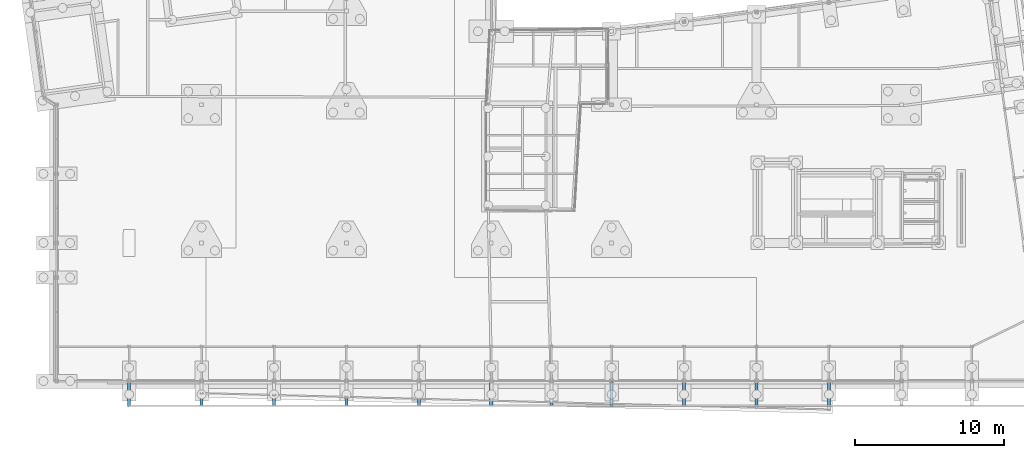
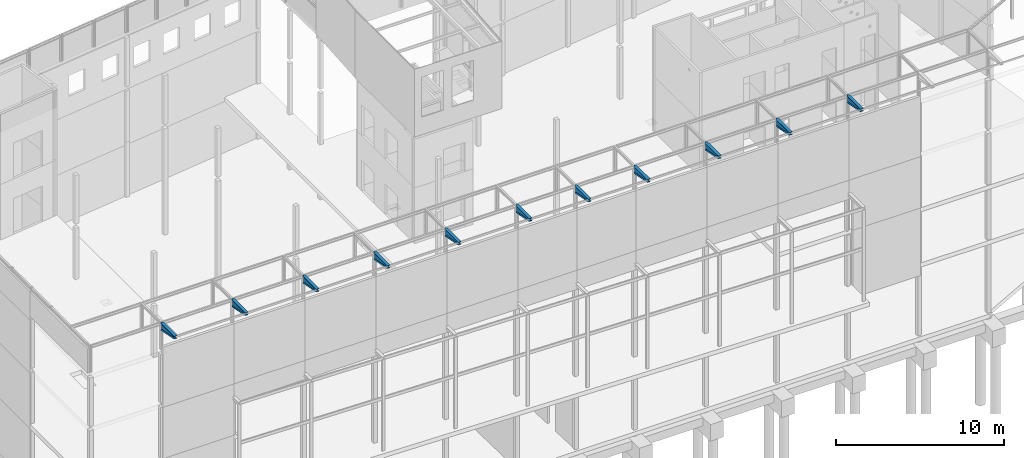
# One storey, part 80 of 82: 11 beams.
"""IFC2X3 building model written with IfcOpenShell, lengths in millimetres."""

from ifc_helpers import new_model, si_unit, frame, origin_with_axes, place, context, subcontext, project, spatial, faceted_brep, material, type_object, element, save


model = new_model("IFC2X3")

# Units and contexts
model_context = context("Model", 3, precision=1e-05, world=origin_with_axes())
body_context = subcontext(model_context, "Body", "Model", "MODEL_VIEW")
ifc_project = project(units=[si_unit("LENGTHUNIT", "METRE", prefix="MILLI"), si_unit("AREAUNIT", "SQUARE_METRE"), si_unit("VOLUMEUNIT", "CUBIC_METRE"), si_unit("MASSUNIT", "GRAM", prefix="KILO"), si_unit("TIMEUNIT", "SECOND"), si_unit("PLANEANGLEUNIT", "RADIAN"), si_unit("SOLIDANGLEUNIT", "STERADIAN"), si_unit("THERMODYNAMICTEMPERATUREUNIT", "DEGREE_CELSIUS"), si_unit("LUMINOUSINTENSITYUNIT", "LUMEN")], contexts=[model_context])

# Site, building, storey
site_placement = place(None, origin_with_axes())
site = spatial("IfcSite", under=ifc_project, at=site_placement, Name="Undefined", CompositionType="ELEMENT")
building_placement = place(site_placement, origin_with_axes())
building = spatial("IfcBuilding", under=site, at=building_placement, Name="Undefined", CompositionType="ELEMENT")
storey_placement = place(building_placement, origin_with_axes())
storey = spatial("IfcBuildingStorey", under=building, at=storey_placement, Name="Undefined", CompositionType="ELEMENT", Elevation=0.0)

# Beams
ifc_material = material(Name="STEEL/S275JR")
beam_type = type_object("IfcBeamType", Name="PHI533-200-10-14*210-14*210", PredefinedType="NOTDEFINED")
beam_1_placement = place(storey_placement, frame((51974.9995146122, -7.05276477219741e-08, 19025.0297374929), z_axis=(0.0, -6.50000002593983e-08, -0.999999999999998), x_axis=(-2.77555756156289e-17, -1.0, 0.0)))
element("IfcBeam", 1, at=beam_1_placement, inside=storey, type_object=beam_type, material=ifc_material, Name="POUTRE", ObjectType="PHI533-200-10-14*210-14*210", context=body_context, shape_type="Brep", body=[
    faceted_brep([(3.99994944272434, -52.000244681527, -100.0), (89.9999494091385, -52.0003284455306, -99.9999999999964), (89.9999494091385, -52.0003284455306, -86.0), (3.99994944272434, -52.000244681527, -86.0), (89.9998977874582, -105.0, -100.0), (89.9998977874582, -105.0, -86.0), (3.99994944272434, -52.000244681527, 417.95041937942), (89.9999494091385, -52.0003284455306, 401.104537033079), (89.9999494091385, -52.0003284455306, 415.370598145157), (3.99994944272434, -52.000244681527, 432.216480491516), (89.9998977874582, -105.0, 401.104547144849), (89.9998977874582, -105.0, 415.370608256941), (4.00000004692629, -5.0, 417.95040946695), (1699.99999997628, -5.00000000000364, 85.7339388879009), (1699.99999997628, -105.000000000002, 85.7339388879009), (1699.99999997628, 104.999999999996, 100.0), (1699.99999997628, 104.999999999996, 85.7339388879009), (90.0001023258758, 105.0, 401.104507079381), (90.0001023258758, 105.0, 415.370568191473), (90.0000507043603, 52.0004975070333, 401.104517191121), (90.0000507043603, 52.0004975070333, 415.370578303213), (4.00005073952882, 52.0005812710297, 417.950399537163), (4.00005073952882, 52.0005812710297, 432.216460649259), (1699.99999997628, 4.99999999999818, 85.7339388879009), (4.00000004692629, 5.0, 417.95040946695), (4.00000004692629, 5.0, -86.0), (1699.99999997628, 4.99999999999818, -86.0), (4.00005073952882, 52.0005812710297, -100.0), (90.0000507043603, 52.0004975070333, -100.0), (90.0001023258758, 105.0, -100.0), (1699.99999997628, 104.999999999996, -100.0), (1699.99999997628, -105.000000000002, -100.0), (4.00005073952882, 52.0005812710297, -86.0), (90.0000507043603, 52.0004975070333, -86.0), (1699.99999997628, 104.999999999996, -86.0), (90.0001023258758, 105.0, -86.0), (1699.99999997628, -105.000000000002, 100.0), (1699.99999997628, -5.00000000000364, -86.0), (1699.99999997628, -105.000000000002, -86.0), (4.00000004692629, -5.0, -86.0)], [[[0, 1, 2, 3]], [[4, 5, 2, 1]], [[6, 7, 8, 9]], [[10, 11, 8, 7]], [[6, 12, 13, 14, 10, 7]], [[15, 16, 17, 18]], [[19, 20, 18, 17]], [[21, 22, 20, 19]], [[17, 16, 23, 24, 21, 19]], [[25, 24, 23, 26]], [[0, 27, 28, 29, 30, 31, 4, 1]], [[27, 32, 33, 28]], [[25, 26, 34, 35, 33, 32]], [[28, 33, 35, 29]], [[34, 30, 29, 35]], [[26, 23, 16, 15, 36, 14, 13, 37, 38, 31, 30, 34]], [[12, 39, 37, 13]], [[38, 37, 39, 3, 2, 5]], [[31, 38, 5, 4]], [[39, 12, 6, 9, 22, 21, 24, 25, 32, 27, 0, 3]], [[36, 15, 18, 20, 22, 9, 8, 11]], [[14, 36, 11, 10]]]),
])
beam_2_placement = place(storey_placement, frame((47099.9995146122, -6.27685210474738e-08, 19025.0297374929), z_axis=(0.0, -6.50000002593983e-08, -0.999999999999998), x_axis=(-2.77555756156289e-17, -1.0, 0.0)))
element("IfcBeam", 2, at=beam_2_placement, inside=storey, type_object=beam_type, material=ifc_material, Name="POUTRE", ObjectType="PHI533-200-10-14*210-14*210", context=body_context, shape_type="Brep", body=[
    faceted_brep([(3.99994944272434, -52.000244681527, -100.0), (89.9999494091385, -52.0003284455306, -99.9999999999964), (89.9999494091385, -52.0003284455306, -86.0), (3.99994944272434, -52.000244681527, -86.0), (89.9998977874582, -105.0, -100.0), (89.9998977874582, -105.0, -86.0), (3.99994944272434, -52.000244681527, 417.95041937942), (89.9999494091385, -52.0003284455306, 401.104537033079), (89.9999494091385, -52.0003284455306, 415.370598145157), (3.99994944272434, -52.000244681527, 432.216480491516), (89.9998977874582, -105.0, 401.104547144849), (89.9998977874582, -105.0, 415.370608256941), (4.00000004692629, -5.0, 417.95040946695), (1699.99999997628, -5.00000000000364, 85.7339388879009), (1699.99999997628, -105.000000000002, 85.7339388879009), (1699.99999997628, 104.999999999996, 100.0), (1699.99999997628, 104.999999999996, 85.7339388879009), (90.0001023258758, 105.0, 401.104507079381), (90.0001023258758, 105.0, 415.370568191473), (90.0000507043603, 52.0004975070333, 401.104517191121), (90.0000507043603, 52.0004975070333, 415.370578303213), (4.00005073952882, 52.0005812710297, 417.950399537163), (4.00005073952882, 52.0005812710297, 432.216460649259), (1699.99999997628, 4.99999999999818, 85.7339388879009), (4.00000004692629, 5.0, 417.95040946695), (4.00000004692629, 5.0, -86.0), (1699.99999997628, 4.99999999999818, -86.0), (4.00005073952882, 52.0005812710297, -100.0), (90.0000507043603, 52.0004975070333, -100.0), (90.0001023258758, 105.0, -100.0), (1699.99999997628, 104.999999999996, -100.0), (1699.99999997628, -105.000000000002, -100.0), (4.00005073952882, 52.0005812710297, -86.0), (90.0000507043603, 52.0004975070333, -86.0), (1699.99999997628, 104.999999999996, -86.0), (90.0001023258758, 105.0, -86.0), (1699.99999997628, -105.000000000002, 100.0), (1699.99999997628, -5.00000000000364, -86.0), (1699.99999997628, -105.000000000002, -86.0), (4.00000004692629, -5.0, -86.0)], [[[0, 1, 2, 3]], [[4, 5, 2, 1]], [[6, 7, 8, 9]], [[10, 11, 8, 7]], [[6, 12, 13, 14, 10, 7]], [[15, 16, 17, 18]], [[19, 20, 18, 17]], [[21, 22, 20, 19]], [[17, 16, 23, 24, 21, 19]], [[25, 24, 23, 26]], [[0, 27, 28, 29, 30, 31, 4, 1]], [[27, 32, 33, 28]], [[25, 26, 34, 35, 33, 32]], [[28, 33, 35, 29]], [[34, 30, 29, 35]], [[26, 23, 16, 15, 36, 14, 13, 37, 38, 31, 30, 34]], [[12, 39, 37, 13]], [[38, 37, 39, 3, 2, 5]], [[31, 38, 5, 4]], [[39, 12, 6, 9, 22, 21, 24, 25, 32, 27, 0, 3]], [[36, 15, 18, 20, 22, 9, 8, 11]], [[14, 36, 11, 10]]]),
])
beam_3_placement = place(storey_placement, frame((42224.9995146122, -5.50093943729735e-08, 19025.0297374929), z_axis=(0.0, -6.50000002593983e-08, -0.999999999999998), x_axis=(-2.77555756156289e-17, -1.0, 0.0)))
element("IfcBeam", 3, at=beam_3_placement, inside=storey, type_object=beam_type, material=ifc_material, Name="POUTRE", ObjectType="PHI533-200-10-14*210-14*210", context=body_context, shape_type="Brep", body=[
    faceted_brep([(3.99994944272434, -52.000244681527, -100.0), (89.9999494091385, -52.0003284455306, -99.9999999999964), (89.9999494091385, -52.0003284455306, -86.0), (3.99994944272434, -52.000244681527, -86.0), (89.9998977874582, -105.0, -100.0), (89.9998977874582, -105.0, -86.0), (3.99994944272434, -52.000244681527, 417.95041937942), (89.9999494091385, -52.0003284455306, 401.104537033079), (89.9999494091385, -52.0003284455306, 415.370598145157), (3.99994944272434, -52.000244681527, 432.216480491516), (89.9998977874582, -105.0, 401.104547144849), (89.9998977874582, -105.0, 415.370608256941), (4.00000004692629, -5.0, 417.95040946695), (1699.99999997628, -5.00000000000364, 85.7339388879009), (1699.99999997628, -105.000000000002, 85.7339388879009), (1699.99999997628, 104.999999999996, 100.0), (1699.99999997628, 104.999999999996, 85.7339388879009), (90.0001023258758, 105.0, 401.104507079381), (90.0001023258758, 105.0, 415.370568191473), (90.0000507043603, 52.0004975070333, 401.104517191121), (90.0000507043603, 52.0004975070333, 415.370578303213), (4.00005073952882, 52.0005812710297, 417.950399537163), (4.00005073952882, 52.0005812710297, 432.216460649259), (1699.99999997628, 4.99999999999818, 85.7339388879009), (4.00000004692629, 5.0, 417.95040946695), (4.00000004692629, 5.0, -86.0), (1699.99999997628, 4.99999999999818, -86.0), (4.00005073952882, 52.0005812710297, -100.0), (90.0000507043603, 52.0004975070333, -100.0), (90.0001023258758, 105.0, -100.0), (1699.99999997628, 104.999999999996, -100.0), (1699.99999997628, -105.000000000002, -100.0), (4.00005073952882, 52.0005812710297, -86.0), (90.0000507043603, 52.0004975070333, -86.0), (1699.99999997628, 104.999999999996, -86.0), (90.0001023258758, 105.0, -86.0), (1699.99999997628, -105.000000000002, 100.0), (1699.99999997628, -5.00000000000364, -86.0), (1699.99999997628, -105.000000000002, -86.0), (4.00000004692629, -5.0, -86.0)], [[[0, 1, 2, 3]], [[4, 5, 2, 1]], [[6, 7, 8, 9]], [[10, 11, 8, 7]], [[6, 12, 13, 14, 10, 7]], [[15, 16, 17, 18]], [[19, 20, 18, 17]], [[21, 22, 20, 19]], [[17, 16, 23, 24, 21, 19]], [[25, 24, 23, 26]], [[0, 27, 28, 29, 30, 31, 4, 1]], [[27, 32, 33, 28]], [[25, 26, 34, 35, 33, 32]], [[28, 33, 35, 29]], [[34, 30, 29, 35]], [[26, 23, 16, 15, 36, 14, 13, 37, 38, 31, 30, 34]], [[12, 39, 37, 13]], [[38, 37, 39, 3, 2, 5]], [[31, 38, 5, 4]], [[39, 12, 6, 9, 22, 21, 24, 25, 32, 27, 0, 3]], [[36, 15, 18, 20, 22, 9, 8, 11]], [[14, 36, 11, 10]]]),
])
beam_4_placement = place(storey_placement, frame((37349.9995146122, -4.72502676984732e-08, 19025.0297374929), z_axis=(0.0, -6.50000002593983e-08, -0.999999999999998), x_axis=(-2.77555756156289e-17, -1.0, 0.0)))
element("IfcBeam", 4, at=beam_4_placement, inside=storey, type_object=beam_type, material=ifc_material, Name="POUTRE", ObjectType="PHI533-200-10-14*210-14*210", context=body_context, shape_type="Brep", body=[
    faceted_brep([(3.99994944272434, -52.000244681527, -100.0), (89.9999494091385, -52.0003284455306, -99.9999999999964), (89.9999494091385, -52.0003284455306, -86.0), (3.99994944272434, -52.000244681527, -86.0), (89.9998977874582, -105.0, -100.0), (89.9998977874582, -105.0, -86.0), (3.99994944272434, -52.000244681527, 417.95041937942), (89.9999494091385, -52.0003284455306, 401.104537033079), (89.9999494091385, -52.0003284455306, 415.370598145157), (3.99994944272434, -52.000244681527, 432.216480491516), (89.9998977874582, -105.0, 401.104547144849), (89.9998977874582, -105.0, 415.370608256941), (4.00000004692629, -5.0, 417.95040946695), (1699.99999997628, -5.00000000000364, 85.7339388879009), (1699.99999997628, -105.000000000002, 85.7339388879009), (1699.99999997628, 104.999999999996, 100.0), (1699.99999997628, 104.999999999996, 85.7339388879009), (90.0001023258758, 105.0, 401.104507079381), (90.0001023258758, 105.0, 415.370568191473), (90.0000507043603, 52.0004975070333, 401.104517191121), (90.0000507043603, 52.0004975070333, 415.370578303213), (4.00005073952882, 52.0005812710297, 417.950399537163), (4.00005073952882, 52.0005812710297, 432.216460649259), (1699.99999997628, 4.99999999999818, 85.7339388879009), (4.00000004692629, 5.0, 417.95040946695), (4.00000004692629, 5.0, -86.0), (1699.99999997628, 4.99999999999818, -86.0), (4.00005073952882, 52.0005812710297, -100.0), (90.0000507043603, 52.0004975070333, -100.0), (90.0001023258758, 105.0, -100.0), (1699.99999997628, 104.999999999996, -100.0), (1699.99999997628, -105.000000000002, -100.0), (4.00005073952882, 52.0005812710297, -86.0), (90.0000507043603, 52.0004975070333, -86.0), (1699.99999997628, 104.999999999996, -86.0), (90.0001023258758, 105.0, -86.0), (1699.99999997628, -105.000000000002, 100.0), (1699.99999997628, -5.00000000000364, -86.0), (1699.99999997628, -105.000000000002, -86.0), (4.00000004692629, -5.0, -86.0)], [[[0, 1, 2, 3]], [[4, 5, 2, 1]], [[6, 7, 8, 9]], [[10, 11, 8, 7]], [[6, 12, 13, 14, 10, 7]], [[15, 16, 17, 18]], [[19, 20, 18, 17]], [[21, 22, 20, 19]], [[17, 16, 23, 24, 21, 19]], [[25, 24, 23, 26]], [[0, 27, 28, 29, 30, 31, 4, 1]], [[27, 32, 33, 28]], [[25, 26, 34, 35, 33, 32]], [[28, 33, 35, 29]], [[34, 30, 29, 35]], [[26, 23, 16, 15, 36, 14, 13, 37, 38, 31, 30, 34]], [[12, 39, 37, 13]], [[38, 37, 39, 3, 2, 5]], [[31, 38, 5, 4]], [[39, 12, 6, 9, 22, 21, 24, 25, 32, 27, 0, 3]], [[36, 15, 18, 20, 22, 9, 8, 11]], [[14, 36, 11, 10]]]),
])
beam_5_placement = place(storey_placement, frame((33299.9995146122, -4.08042239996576e-08, 19025.0297374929), z_axis=(0.0, -6.50000002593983e-08, -0.999999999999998), x_axis=(-2.77555756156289e-17, -1.0, 0.0)))
element("IfcBeam", 5, at=beam_5_placement, inside=storey, type_object=beam_type, material=ifc_material, Name="POUTRE", ObjectType="PHI533-200-10-14*210-14*210", context=body_context, shape_type="Brep", body=[
    faceted_brep([(3.99994944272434, -52.000244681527, -100.0), (89.9999494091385, -52.0003284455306, -99.9999999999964), (89.9999494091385, -52.0003284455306, -86.0), (3.99994944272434, -52.000244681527, -86.0), (89.9998977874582, -105.0, -100.0), (89.9998977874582, -105.0, -86.0), (3.99994944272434, -52.000244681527, 417.95041937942), (89.9999494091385, -52.0003284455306, 401.104537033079), (89.9999494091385, -52.0003284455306, 415.370598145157), (3.99994944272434, -52.000244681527, 432.216480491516), (89.9998977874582, -105.0, 401.104547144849), (89.9998977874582, -105.0, 415.370608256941), (4.00000004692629, -5.0, 417.95040946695), (1699.99999997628, -5.00000000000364, 85.7339388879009), (1699.99999997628, -105.000000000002, 85.7339388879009), (1699.99999997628, 104.999999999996, 100.0), (1699.99999997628, 104.999999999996, 85.7339388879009), (90.0001023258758, 105.0, 401.104507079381), (90.0001023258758, 105.0, 415.370568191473), (90.0000507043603, 52.0004975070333, 401.104517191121), (90.0000507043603, 52.0004975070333, 415.370578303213), (4.00005073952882, 52.0005812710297, 417.950399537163), (4.00005073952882, 52.0005812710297, 432.216460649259), (1699.99999997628, 4.99999999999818, 85.7339388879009), (4.00000004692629, 5.0, 417.95040946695), (4.00000004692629, 5.0, -86.0), (1699.99999997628, 4.99999999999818, -86.0), (4.00005073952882, 52.0005812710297, -100.0), (90.0000507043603, 52.0004975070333, -100.0), (90.0001023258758, 105.0, -100.0), (1699.99999997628, 104.999999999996, -100.0), (1699.99999997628, -105.000000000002, -100.0), (4.00005073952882, 52.0005812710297, -86.0), (90.0000507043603, 52.0004975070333, -86.0), (1699.99999997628, 104.999999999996, -86.0), (90.0001023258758, 105.0, -86.0), (1699.99999997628, -105.000000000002, 100.0), (1699.99999997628, -5.00000000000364, -86.0), (1699.99999997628, -105.000000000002, -86.0), (4.00000004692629, -5.0, -86.0)], [[[0, 1, 2, 3]], [[4, 5, 2, 1]], [[6, 7, 8, 9]], [[10, 11, 8, 7]], [[6, 12, 13, 14, 10, 7]], [[15, 16, 17, 18]], [[19, 20, 18, 17]], [[21, 22, 20, 19]], [[17, 16, 23, 24, 21, 19]], [[25, 24, 23, 26]], [[0, 27, 28, 29, 30, 31, 4, 1]], [[27, 32, 33, 28]], [[25, 26, 34, 35, 33, 32]], [[28, 33, 35, 29]], [[34, 30, 29, 35]], [[26, 23, 16, 15, 36, 14, 13, 37, 38, 31, 30, 34]], [[12, 39, 37, 13]], [[38, 37, 39, 3, 2, 5]], [[31, 38, 5, 4]], [[39, 12, 6, 9, 22, 21, 24, 25, 32, 27, 0, 3]], [[36, 15, 18, 20, 22, 9, 8, 11]], [[14, 36, 11, 10]]]),
])
beam_6_placement = place(storey_placement, frame((29249.9995146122, -3.43581803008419e-08, 19025.0297374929), z_axis=(0.0, -6.50000002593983e-08, -0.999999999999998), x_axis=(-2.77555756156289e-17, -1.0, 0.0)))
element("IfcBeam", 6, at=beam_6_placement, inside=storey, type_object=beam_type, material=ifc_material, Name="POUTRE", ObjectType="PHI533-200-10-14*210-14*210", context=body_context, shape_type="Brep", body=[
    faceted_brep([(3.99994944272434, -52.000244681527, -100.0), (89.9999494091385, -52.0003284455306, -99.9999999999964), (89.9999494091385, -52.0003284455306, -86.0), (3.99994944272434, -52.000244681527, -86.0), (89.9998977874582, -105.0, -100.0), (89.9998977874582, -105.0, -86.0), (3.99994944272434, -52.000244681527, 417.95041937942), (89.9999494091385, -52.0003284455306, 401.104537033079), (89.9999494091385, -52.0003284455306, 415.370598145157), (3.99994944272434, -52.000244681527, 432.216480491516), (89.9998977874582, -105.0, 401.104547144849), (89.9998977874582, -105.0, 415.370608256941), (4.00000004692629, -5.0, 417.95040946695), (1699.99999997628, -5.00000000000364, 85.7339388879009), (1699.99999997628, -105.000000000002, 85.7339388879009), (1699.99999997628, 104.999999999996, 100.0), (1699.99999997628, 104.999999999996, 85.7339388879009), (90.0001023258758, 105.0, 401.104507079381), (90.0001023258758, 105.0, 415.370568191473), (90.0000507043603, 52.0004975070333, 401.104517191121), (90.0000507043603, 52.0004975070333, 415.370578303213), (4.00005073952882, 52.0005812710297, 417.950399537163), (4.00005073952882, 52.0005812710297, 432.216460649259), (1699.99999997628, 4.99999999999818, 85.7339388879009), (4.00000004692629, 5.0, 417.95040946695), (4.00000004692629, 5.0, -86.0), (1699.99999997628, 4.99999999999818, -86.0), (4.00005073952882, 52.0005812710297, -100.0), (90.0000507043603, 52.0004975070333, -100.0), (90.0001023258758, 105.0, -100.0), (1699.99999997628, 104.999999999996, -100.0), (1699.99999997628, -105.000000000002, -100.0), (4.00005073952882, 52.0005812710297, -86.0), (90.0000507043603, 52.0004975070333, -86.0), (1699.99999997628, 104.999999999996, -86.0), (90.0001023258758, 105.0, -86.0), (1699.99999997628, -105.000000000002, 100.0), (1699.99999997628, -5.00000000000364, -86.0), (1699.99999997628, -105.000000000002, -86.0), (4.00000004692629, -5.0, -86.0)], [[[0, 1, 2, 3]], [[4, 5, 2, 1]], [[6, 7, 8, 9]], [[10, 11, 8, 7]], [[6, 12, 13, 14, 10, 7]], [[15, 16, 17, 18]], [[19, 20, 18, 17]], [[21, 22, 20, 19]], [[17, 16, 23, 24, 21, 19]], [[25, 24, 23, 26]], [[0, 27, 28, 29, 30, 31, 4, 1]], [[27, 32, 33, 28]], [[25, 26, 34, 35, 33, 32]], [[28, 33, 35, 29]], [[34, 30, 29, 35]], [[26, 23, 16, 15, 36, 14, 13, 37, 38, 31, 30, 34]], [[12, 39, 37, 13]], [[38, 37, 39, 3, 2, 5]], [[31, 38, 5, 4]], [[39, 12, 6, 9, 22, 21, 24, 25, 32, 27, 0, 3]], [[36, 15, 18, 20, 22, 9, 8, 11]], [[14, 36, 11, 10]]]),
])
beam_7_placement = place(storey_placement, frame((24374.9995146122, -2.65990536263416e-08, 19025.0297374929), z_axis=(0.0, -6.50000002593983e-08, -0.999999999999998), x_axis=(-2.77555756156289e-17, -1.0, 0.0)))
element("IfcBeam", 7, at=beam_7_placement, inside=storey, type_object=beam_type, material=ifc_material, Name="POUTRE", ObjectType="PHI533-200-10-14*210-14*210", context=body_context, shape_type="Brep", body=[
    faceted_brep([(3.99994944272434, -52.000244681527, -100.0), (89.9999494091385, -52.0003284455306, -99.9999999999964), (89.9999494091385, -52.0003284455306, -86.0), (3.99994944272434, -52.000244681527, -86.0), (89.9998977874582, -105.0, -100.0), (89.9998977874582, -105.0, -86.0), (3.99994944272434, -52.000244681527, 417.95041937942), (89.9999494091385, -52.0003284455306, 401.104537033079), (89.9999494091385, -52.0003284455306, 415.370598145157), (3.99994944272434, -52.000244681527, 432.216480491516), (89.9998977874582, -105.0, 401.104547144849), (89.9998977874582, -105.0, 415.370608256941), (4.00000004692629, -5.0, 417.95040946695), (1699.99999997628, -5.00000000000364, 85.7339388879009), (1699.99999997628, -105.000000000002, 85.7339388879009), (1699.99999997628, 104.999999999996, 100.0), (1699.99999997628, 104.999999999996, 85.7339388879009), (90.0001023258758, 105.0, 401.104507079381), (90.0001023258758, 105.0, 415.370568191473), (90.0000507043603, 52.0004975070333, 401.104517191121), (90.0000507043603, 52.0004975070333, 415.370578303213), (4.00005073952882, 52.0005812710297, 417.950399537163), (4.00005073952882, 52.0005812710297, 432.216460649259), (1699.99999997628, 4.99999999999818, 85.7339388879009), (4.00000004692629, 5.0, 417.95040946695), (4.00000004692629, 5.0, -86.0), (1699.99999997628, 4.99999999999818, -86.0), (4.00005073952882, 52.0005812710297, -100.0), (90.0000507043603, 52.0004975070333, -100.0), (90.0001023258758, 105.0, -100.0), (1699.99999997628, 104.999999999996, -100.0), (1699.99999997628, -105.000000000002, -100.0), (4.00005073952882, 52.0005812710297, -86.0), (90.0000507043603, 52.0004975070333, -86.0), (1699.99999997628, 104.999999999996, -86.0), (90.0001023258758, 105.0, -86.0), (1699.99999997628, -105.000000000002, 100.0), (1699.99999997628, -5.00000000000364, -86.0), (1699.99999997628, -105.000000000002, -86.0), (4.00000004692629, -5.0, -86.0)], [[[0, 1, 2, 3]], [[4, 5, 2, 1]], [[6, 7, 8, 9]], [[10, 11, 8, 7]], [[6, 12, 13, 14, 10, 7]], [[15, 16, 17, 18]], [[19, 20, 18, 17]], [[21, 22, 20, 19]], [[17, 16, 23, 24, 21, 19]], [[25, 24, 23, 26]], [[0, 27, 28, 29, 30, 31, 4, 1]], [[27, 32, 33, 28]], [[25, 26, 34, 35, 33, 32]], [[28, 33, 35, 29]], [[34, 30, 29, 35]], [[26, 23, 16, 15, 36, 14, 13, 37, 38, 31, 30, 34]], [[12, 39, 37, 13]], [[38, 37, 39, 3, 2, 5]], [[31, 38, 5, 4]], [[39, 12, 6, 9, 22, 21, 24, 25, 32, 27, 0, 3]], [[36, 15, 18, 20, 22, 9, 8, 11]], [[14, 36, 11, 10]]]),
])
beam_8_placement = place(storey_placement, frame((19499.9995146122, -1.88399269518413e-08, 19025.0297374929), z_axis=(0.0, -6.50000002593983e-08, -0.999999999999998), x_axis=(-2.77555756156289e-17, -1.0, 0.0)))
element("IfcBeam", 8, at=beam_8_placement, inside=storey, type_object=beam_type, material=ifc_material, Name="POUTRE", ObjectType="PHI533-200-10-14*210-14*210", context=body_context, shape_type="Brep", body=[
    faceted_brep([(3.99994944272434, -52.000244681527, -100.0), (89.9999494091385, -52.0003284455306, -99.9999999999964), (89.9999494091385, -52.0003284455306, -86.0), (3.99994944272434, -52.000244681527, -86.0), (89.9998977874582, -105.0, -100.0), (89.9998977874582, -105.0, -86.0), (3.99994944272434, -52.000244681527, 417.95041937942), (89.9999494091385, -52.0003284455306, 401.104537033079), (89.9999494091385, -52.0003284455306, 415.370598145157), (3.99994944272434, -52.000244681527, 432.216480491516), (89.9998977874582, -105.0, 401.104547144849), (89.9998977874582, -105.0, 415.370608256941), (4.00000004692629, -5.0, 417.95040946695), (1699.99999997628, -5.00000000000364, 85.7339388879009), (1699.99999997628, -105.000000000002, 85.7339388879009), (1699.99999997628, 104.999999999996, 100.0), (1699.99999997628, 104.999999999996, 85.7339388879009), (90.0001023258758, 105.0, 401.104507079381), (90.0001023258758, 105.0, 415.370568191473), (90.0000507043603, 52.0004975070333, 401.104517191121), (90.0000507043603, 52.0004975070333, 415.370578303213), (4.00005073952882, 52.0005812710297, 417.950399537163), (4.00005073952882, 52.0005812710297, 432.216460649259), (1699.99999997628, 4.99999999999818, 85.7339388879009), (4.00000004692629, 5.0, 417.95040946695), (4.00000004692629, 5.0, -86.0), (1699.99999997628, 4.99999999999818, -86.0), (4.00005073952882, 52.0005812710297, -100.0), (90.0000507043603, 52.0004975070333, -100.0), (90.0001023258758, 105.0, -100.0), (1699.99999997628, 104.999999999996, -100.0), (1699.99999997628, -105.000000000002, -100.0), (4.00005073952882, 52.0005812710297, -86.0), (90.0000507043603, 52.0004975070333, -86.0), (1699.99999997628, 104.999999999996, -86.0), (90.0001023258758, 105.0, -86.0), (1699.99999997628, -105.000000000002, 100.0), (1699.99999997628, -5.00000000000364, -86.0), (1699.99999997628, -105.000000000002, -86.0), (4.00000004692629, -5.0, -86.0)], [[[0, 1, 2, 3]], [[4, 5, 2, 1]], [[6, 7, 8, 9]], [[10, 11, 8, 7]], [[6, 12, 13, 14, 10, 7]], [[15, 16, 17, 18]], [[19, 20, 18, 17]], [[21, 22, 20, 19]], [[17, 16, 23, 24, 21, 19]], [[25, 24, 23, 26]], [[0, 27, 28, 29, 30, 31, 4, 1]], [[27, 32, 33, 28]], [[25, 26, 34, 35, 33, 32]], [[28, 33, 35, 29]], [[34, 30, 29, 35]], [[26, 23, 16, 15, 36, 14, 13, 37, 38, 31, 30, 34]], [[12, 39, 37, 13]], [[38, 37, 39, 3, 2, 5]], [[31, 38, 5, 4]], [[39, 12, 6, 9, 22, 21, 24, 25, 32, 27, 0, 3]], [[36, 15, 18, 20, 22, 9, 8, 11]], [[14, 36, 11, 10]]]),
])
beam_9_placement = place(storey_placement, frame((14624.9995146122, -1.1080800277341e-08, 19025.0297374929), z_axis=(0.0, -6.50000002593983e-08, -0.999999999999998), x_axis=(-2.77555756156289e-17, -1.0, 0.0)))
element("IfcBeam", 9, at=beam_9_placement, inside=storey, type_object=beam_type, material=ifc_material, Name="POUTRE", ObjectType="PHI533-200-10-14*210-14*210", context=body_context, shape_type="Brep", body=[
    faceted_brep([(3.99994944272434, -52.000244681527, -100.0), (89.9999494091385, -52.0003284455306, -99.9999999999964), (89.9999494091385, -52.0003284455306, -86.0), (3.99994944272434, -52.000244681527, -86.0), (89.9998977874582, -105.0, -100.0), (89.9998977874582, -105.0, -86.0), (3.99994944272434, -52.000244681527, 417.95041937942), (89.9999494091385, -52.0003284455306, 401.104537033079), (89.9999494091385, -52.0003284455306, 415.370598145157), (3.99994944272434, -52.000244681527, 432.216480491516), (89.9998977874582, -105.0, 401.104547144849), (89.9998977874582, -105.0, 415.370608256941), (4.00000004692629, -5.0, 417.95040946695), (1699.99999997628, -5.00000000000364, 85.7339388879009), (1699.99999997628, -105.000000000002, 85.7339388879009), (1699.99999997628, 104.999999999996, 100.0), (1699.99999997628, 104.999999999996, 85.7339388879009), (90.0001023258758, 105.0, 401.104507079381), (90.0001023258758, 105.0, 415.370568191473), (90.0000507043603, 52.0004975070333, 401.104517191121), (90.0000507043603, 52.0004975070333, 415.370578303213), (4.00005073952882, 52.0005812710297, 417.950399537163), (4.00005073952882, 52.0005812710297, 432.216460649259), (1699.99999997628, 4.99999999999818, 85.7339388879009), (4.00000004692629, 5.0, 417.95040946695), (4.00000004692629, 5.0, -86.0), (1699.99999997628, 4.99999999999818, -86.0), (4.00005073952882, 52.0005812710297, -100.0), (90.0000507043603, 52.0004975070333, -100.0), (90.0001023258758, 105.0, -100.0), (1699.99999997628, 104.999999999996, -100.0), (1699.99999997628, -105.000000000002, -100.0), (4.00005073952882, 52.0005812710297, -86.0), (90.0000507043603, 52.0004975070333, -86.0), (1699.99999997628, 104.999999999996, -86.0), (90.0001023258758, 105.0, -86.0), (1699.99999997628, -105.000000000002, 100.0), (1699.99999997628, -5.00000000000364, -86.0), (1699.99999997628, -105.000000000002, -86.0), (4.00000004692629, -5.0, -86.0)], [[[0, 1, 2, 3]], [[4, 5, 2, 1]], [[6, 7, 8, 9]], [[10, 11, 8, 7]], [[6, 12, 13, 14, 10, 7]], [[15, 16, 17, 18]], [[19, 20, 18, 17]], [[21, 22, 20, 19]], [[17, 16, 23, 24, 21, 19]], [[25, 24, 23, 26]], [[0, 27, 28, 29, 30, 31, 4, 1]], [[27, 32, 33, 28]], [[25, 26, 34, 35, 33, 32]], [[28, 33, 35, 29]], [[34, 30, 29, 35]], [[26, 23, 16, 15, 36, 14, 13, 37, 38, 31, 30, 34]], [[12, 39, 37, 13]], [[38, 37, 39, 3, 2, 5]], [[31, 38, 5, 4]], [[39, 12, 6, 9, 22, 21, 24, 25, 32, 27, 0, 3]], [[36, 15, 18, 20, 22, 9, 8, 11]], [[14, 36, 11, 10]]]),
])
beam_10_placement = place(storey_placement, frame((9749.99951461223, -3.32167360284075e-09, 19025.0297374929), z_axis=(0.0, -6.50000002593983e-08, -0.999999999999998), x_axis=(-2.77555756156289e-17, -1.0, 0.0)))
element("IfcBeam", 10, at=beam_10_placement, inside=storey, type_object=beam_type, material=ifc_material, Name="POUTRE", ObjectType="PHI533-200-10-14*210-14*210", context=body_context, shape_type="Brep", body=[
    faceted_brep([(3.99994944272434, -52.000244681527, -100.0), (89.9999494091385, -52.0003284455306, -99.9999999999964), (89.9999494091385, -52.0003284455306, -86.0), (3.99994944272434, -52.000244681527, -86.0), (89.9998977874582, -105.0, -100.0), (89.9998977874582, -105.0, -86.0), (3.99994944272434, -52.000244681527, 417.95041937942), (89.9999494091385, -52.0003284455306, 401.104537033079), (89.9999494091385, -52.0003284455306, 415.370598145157), (3.99994944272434, -52.000244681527, 432.216480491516), (89.9998977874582, -105.0, 401.104547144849), (89.9998977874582, -105.0, 415.370608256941), (4.00000004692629, -5.0, 417.95040946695), (1699.99999997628, -5.00000000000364, 85.7339388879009), (1699.99999997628, -105.000000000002, 85.7339388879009), (1699.99999997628, 104.999999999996, 100.0), (1699.99999997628, 104.999999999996, 85.7339388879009), (90.0001023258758, 105.0, 401.104507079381), (90.0001023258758, 105.0, 415.370568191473), (90.0000507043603, 52.0004975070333, 401.104517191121), (90.0000507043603, 52.0004975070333, 415.370578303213), (4.00005073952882, 52.0005812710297, 417.950399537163), (4.00005073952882, 52.0005812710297, 432.216460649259), (1699.99999997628, 4.99999999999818, 85.7339388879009), (4.00000004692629, 5.0, 417.95040946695), (4.00000004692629, 5.0, -86.0), (1699.99999997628, 4.99999999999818, -86.0), (4.00005073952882, 52.0005812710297, -100.0), (90.0000507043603, 52.0004975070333, -100.0), (90.0001023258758, 105.0, -100.0), (1699.99999997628, 104.999999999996, -100.0), (1699.99999997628, -105.000000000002, -100.0), (4.00005073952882, 52.0005812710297, -86.0), (90.0000507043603, 52.0004975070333, -86.0), (1699.99999997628, 104.999999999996, -86.0), (90.0001023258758, 105.0, -86.0), (1699.99999997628, -105.000000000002, 100.0), (1699.99999997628, -5.00000000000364, -86.0), (1699.99999997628, -105.000000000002, -86.0), (4.00000004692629, -5.0, -86.0)], [[[0, 1, 2, 3]], [[4, 5, 2, 1]], [[6, 7, 8, 9]], [[10, 11, 8, 7]], [[6, 12, 13, 14, 10, 7]], [[15, 16, 17, 18]], [[19, 20, 18, 17]], [[21, 22, 20, 19]], [[17, 16, 23, 24, 21, 19]], [[25, 24, 23, 26]], [[0, 27, 28, 29, 30, 31, 4, 1]], [[27, 32, 33, 28]], [[25, 26, 34, 35, 33, 32]], [[28, 33, 35, 29]], [[34, 30, 29, 35]], [[26, 23, 16, 15, 36, 14, 13, 37, 38, 31, 30, 34]], [[12, 39, 37, 13]], [[38, 37, 39, 3, 2, 5]], [[31, 38, 5, 4]], [[39, 12, 6, 9, 22, 21, 24, 25, 32, 27, 0, 3]], [[36, 15, 18, 20, 22, 9, 8, 11]], [[14, 36, 11, 10]]]),
])
beam_11_placement = place(storey_placement, frame((4874.99951461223, 4.43745307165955e-09, 19025.0297374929), z_axis=(0.0, -6.50000002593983e-08, -0.999999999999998), x_axis=(-2.77555756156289e-17, -1.0, 0.0)))
element("IfcBeam", 11, at=beam_11_placement, inside=storey, type_object=beam_type, material=ifc_material, Name="POUTRE", ObjectType="PHI533-200-10-14*210-14*210", context=body_context, shape_type="Brep", body=[
    faceted_brep([(3.99994944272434, -52.000244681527, -100.0), (89.9999494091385, -52.0003284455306, -99.9999999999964), (89.9999494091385, -52.0003284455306, -86.0), (3.99994944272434, -52.000244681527, -86.0), (89.9998977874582, -105.0, -100.0), (89.9998977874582, -105.0, -86.0), (3.99994944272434, -52.000244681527, 417.95041937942), (89.9999494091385, -52.0003284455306, 401.104537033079), (89.9999494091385, -52.0003284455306, 415.370598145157), (3.99994944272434, -52.000244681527, 432.216480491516), (89.9998977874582, -105.0, 401.104547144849), (89.9998977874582, -105.0, 415.370608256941), (4.00000004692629, -5.0, 417.95040946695), (1699.99999997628, -5.00000000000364, 85.7339388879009), (1699.99999997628, -105.000000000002, 85.7339388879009), (1699.99999997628, 104.999999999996, 100.0), (1699.99999997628, 104.999999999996, 85.7339388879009), (90.0001023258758, 105.0, 401.104507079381), (90.0001023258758, 105.0, 415.370568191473), (90.0000507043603, 52.0004975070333, 401.104517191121), (90.0000507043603, 52.0004975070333, 415.370578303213), (4.00005073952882, 52.0005812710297, 417.950399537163), (4.00005073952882, 52.0005812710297, 432.216460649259), (1699.99999997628, 4.99999999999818, 85.7339388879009), (4.00000004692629, 5.0, 417.95040946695), (4.00000004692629, 5.0, -86.0), (1699.99999997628, 4.99999999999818, -86.0), (4.00005073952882, 52.0005812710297, -100.0), (90.0000507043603, 52.0004975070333, -100.0), (90.0001023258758, 105.0, -100.0), (1699.99999997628, 104.999999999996, -100.0), (1699.99999997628, -105.000000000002, -100.0), (4.00005073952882, 52.0005812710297, -86.0), (90.0000507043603, 52.0004975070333, -86.0), (1699.99999997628, 104.999999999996, -86.0), (90.0001023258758, 105.0, -86.0), (1699.99999997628, -105.000000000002, 100.0), (1699.99999997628, -5.00000000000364, -86.0), (1699.99999997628, -105.000000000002, -86.0), (4.00000004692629, -5.0, -86.0)], [[[0, 1, 2, 3]], [[4, 5, 2, 1]], [[6, 7, 8, 9]], [[10, 11, 8, 7]], [[6, 12, 13, 14, 10, 7]], [[15, 16, 17, 18]], [[19, 20, 18, 17]], [[21, 22, 20, 19]], [[17, 16, 23, 24, 21, 19]], [[25, 24, 23, 26]], [[0, 27, 28, 29, 30, 31, 4, 1]], [[27, 32, 33, 28]], [[25, 26, 34, 35, 33, 32]], [[28, 33, 35, 29]], [[34, 30, 29, 35]], [[26, 23, 16, 15, 36, 14, 13, 37, 38, 31, 30, 34]], [[12, 39, 37, 13]], [[38, 37, 39, 3, 2, 5]], [[31, 38, 5, 4]], [[39, 12, 6, 9, 22, 21, 24, 25, 32, 27, 0, 3]], [[36, 15, 18, 20, 22, 9, 8, 11]], [[14, 36, 11, 10]]]),
])

save(model, "model.ifc")
